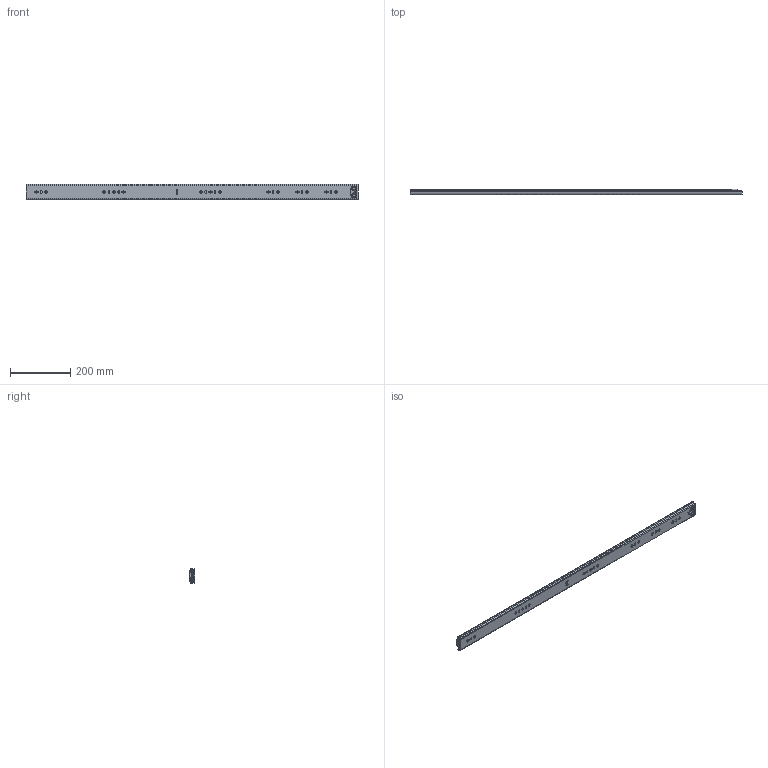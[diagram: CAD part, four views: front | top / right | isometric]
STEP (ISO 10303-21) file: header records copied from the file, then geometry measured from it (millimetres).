
FILE_DESCRIPTION((''),'2;1');
FILE_NAME('1053-02-44_ASM','2022-08-16T',('jishu015'),(''),'PRO/ENGINEER BY PARAMETRIC TECHNOLOGY CORPORATION, 2010280','PRO/ENGINEER BY PARAMETRIC TECHNOLOGY CORPORATION, 2010280','');
FILE_SCHEMA(('CONFIG_CONTROL_DESIGN'));
Products named in the file (16): 1053-02-44WAIKE; 1053WEIJIAO_______; 53-WAIKEJIAO-44; 1053-02-44WAIKE_ASM; 1053ZHUTIAO-175_______; 53-5-6GANZHU_______; 1053ZHUTIAO-175MM________ASM; 1053-02-18ZHONGGUI_______; 53ZHIDIJIAO_______; 1053-02-18ZHONGGUI________ASM; 1053XIAOZHUJIA-14GE_______; 1053XIAOZHUJIA-14GE________ASM; 1053-02-18NEIGUI_______; 53BACHA______; 1053-02-18NEIGUI________ASM; 1053-02-44_ASM
Assembly tree (119 placements, depth 3):
  1053-02-44_ASM
    1053-02-44WAIKE_ASM
      1053-02-44WAIKE
      1053WEIJIAO_______
      53-WAIKEJIAO-44
    1053ZHUTIAO-175MM________ASM  x2
      1053ZHUTIAO-175_______
      53-5-6GANZHU_______
    1053-02-18ZHONGGUI________ASM
      1053-02-18ZHONGGUI_______
      53ZHIDIJIAO_______
    1053XIAOZHUJIA-14GE________ASM
      1053XIAOZHUJIA-14GE_______
      53-5-6GANZHU_______  x84
    1053-02-18NEIGUI________ASM
      1053-02-18NEIGUI_______
      53BACHA______
Bounding box: 1100 x 18.7 x 53 mm (x, y, z)
Volume: 419680.4 mm3; surface area: 484332.6 mm2
Topology: 134 solids, 140 shells, 3185 faces, 9266 edges, 5757 vertices
Faces by surface type: cylinder 1422, plane 1220, sphere 266, cone 124, bspline 119, torus 34
Entity records: 100590 total; most frequent: CARTESIAN_POINT 24036, ORIENTED_EDGE 16116, DIRECTION 15935, EDGE_CURVE 8130, AXIS2_PLACEMENT_3D 5575, VERTEX_POINT 5255, VECTOR 4785, LINE 4785
